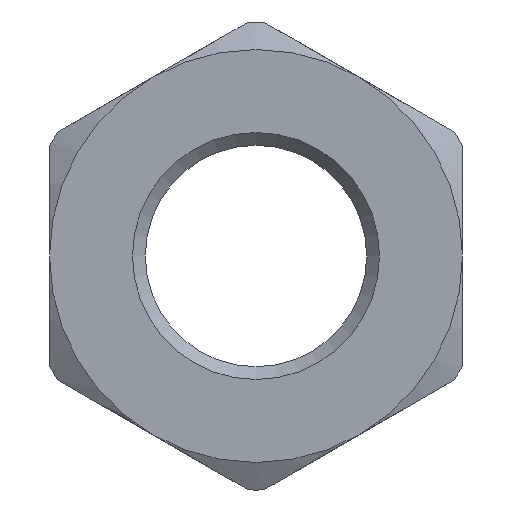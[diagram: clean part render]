
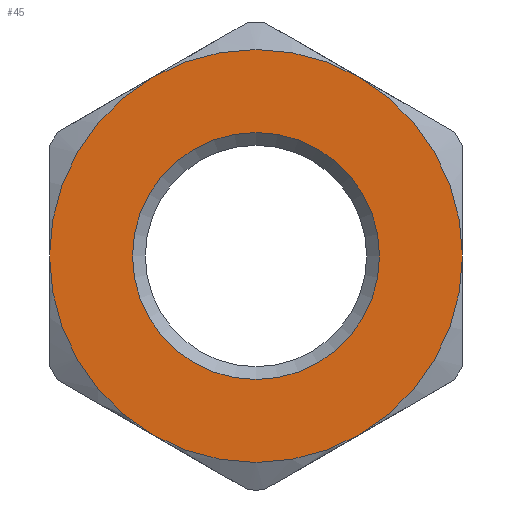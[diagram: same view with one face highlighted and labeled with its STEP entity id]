
A CAD part, front view. The second image highlights one B-rep face of the part: STEP entity #45.
In plain terms, the highlighted planar face has unit normal (0, -1, 0).
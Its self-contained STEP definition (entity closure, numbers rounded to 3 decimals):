
#45=ADVANCED_FACE('',(#76,#78),#80,.F.);
#76=FACE_BOUND('',#77,.T.);
#77=EDGE_LOOP('',(#246,#247,#248));
#78=FACE_BOUND('',#79,.T.);
#79=EDGE_LOOP('',(#249));
#80=PLANE('',#81);
#81=AXIS2_PLACEMENT_3D('',#82,#83,#84);
#82=CARTESIAN_POINT('',(0.,0.,0.));
#83=DIRECTION('',(0.,1.,0.));
#84=DIRECTION('',(-1.,0.,0.));
#246=ORIENTED_EDGE('',*,*,#344,.T.);
#247=ORIENTED_EDGE('',*,*,#345,.T.);
#248=ORIENTED_EDGE('',*,*,#346,.T.);
#249=ORIENTED_EDGE('',*,*,#347,.T.);
#344=EDGE_CURVE('',#395,#396,#397,.F.);
#345=EDGE_CURVE('',#396,#398,#399,.F.);
#346=EDGE_CURVE('',#398,#395,#400,.F.);
#347=EDGE_CURVE('',#401,#401,#402,.T.);
#395=VERTEX_POINT('',#484);
#396=VERTEX_POINT('',#485);
#397=CIRCLE('',#486,22.5);
#398=VERTEX_POINT('',#490);
#399=CIRCLE('',#491,22.5);
#400=CIRCLE('',#495,22.5);
#401=VERTEX_POINT('',#499);
#402=CIRCLE('',#500,13.459);
#484=CARTESIAN_POINT('',(22.5,0.,0.));
#485=CARTESIAN_POINT('',(-11.25,0.,19.486));
#486=AXIS2_PLACEMENT_3D('',#487,#488,#489);
#487=CARTESIAN_POINT('',(0.,0.,0.));
#488=DIRECTION('',(0.,1.,0.));
#489=DIRECTION('',(-0.5,0.,0.866));
#490=CARTESIAN_POINT('',(-22.5,0.,0.));
#491=AXIS2_PLACEMENT_3D('',#492,#493,#494);
#492=CARTESIAN_POINT('',(0.,0.,0.));
#493=DIRECTION('',(0.,1.,0.));
#494=DIRECTION('',(-1.,0.,0.));
#495=AXIS2_PLACEMENT_3D('',#496,#497,#498);
#496=CARTESIAN_POINT('',(0.,0.,0.));
#497=DIRECTION('',(0.,1.,0.));
#498=DIRECTION('',(1.,0.,0.));
#499=CARTESIAN_POINT('',(-13.459,0.,0.));
#500=AXIS2_PLACEMENT_3D('',#501,#502,#503);
#501=CARTESIAN_POINT('',(0.,0.,0.));
#502=DIRECTION('',(0.,1.,0.));
#503=DIRECTION('',(-1.,0.,0.));
